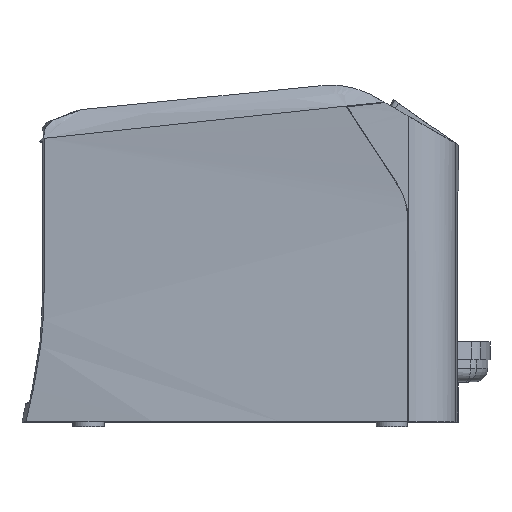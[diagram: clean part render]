
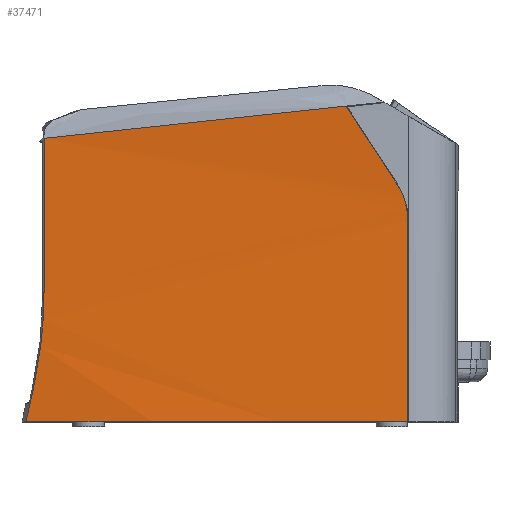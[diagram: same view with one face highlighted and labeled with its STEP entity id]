
A CAD part, top view. The second image highlights one B-rep face of the part: STEP entity #37471.
In plain terms, the highlighted cylindrical face has radius 3075.18 mm (diameter 6150.36 mm), a partial arc.
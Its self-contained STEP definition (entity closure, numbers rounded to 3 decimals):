
#28=ELLIPSE('',#39543,5640.577,3075.18);
#84=CYLINDRICAL_SURFACE('',#39557,3075.18);
#5058=LINE('',#58679,#9930);
#5076=LINE('',#58769,#9948);
#9930=VECTOR('',#48176,225.719);
#9948=VECTOR('',#48230,172.945);
#14094=FACE_OUTER_BOUND('',#16493,.T.);
#16493=EDGE_LOOP('',(#34559,#34560,#34561,#34562,#34563,#34564,#34565,#34566));
#16723=CIRCLE('',#39558,3075.18);
#16847=B_SPLINE_CURVE_WITH_KNOTS('',3,(#58682,#58683,#58684,#58685,#58686,
#58687,#58688,#58689),.UNSPECIFIED.,.F.,.F.,(4,2,2,4),(0.,1.405,
2.81,3.746),.UNSPECIFIED.);
#16851=B_SPLINE_CURVE_WITH_KNOTS('',3,(#58758,#58759,#58760,#58761,#58762,
#58763,#58764,#58765,#58766,#58767),.UNSPECIFIED.,.F.,.F.,(4,3,3,4),(7.044,
26.362,39.782,41.168),.UNSPECIFIED.);
#16852=B_SPLINE_CURVE_WITH_KNOTS('',3,(#58771,#58772,#58773,#58774,#58775,
#58776),.UNSPECIFIED.,.F.,.F.,(4,2,4),(88.926,93.029,
99.891),.UNSPECIFIED.);
#16853=B_SPLINE_CURVE_WITH_KNOTS('',3,(#58778,#58779,#58780,#58781),
 .UNSPECIFIED.,.F.,.F.,(4,4),(1.007,4.486),
 .UNSPECIFIED.);
#19953=VERTEX_POINT('',#58673);
#19955=VERTEX_POINT('',#58677);
#19956=VERTEX_POINT('',#58681);
#19958=VERTEX_POINT('',#58694);
#19974=VERTEX_POINT('',#58757);
#19975=VERTEX_POINT('',#58768);
#19976=VERTEX_POINT('',#58770);
#19977=VERTEX_POINT('',#58777);
#24869=EDGE_CURVE('',#19953,#19955,#5058,.T.);
#24870=EDGE_CURVE('',#19955,#19956,#16847,.T.);
#24873=EDGE_CURVE('',#19956,#19958,#28,.T.);
#24898=EDGE_CURVE('',#19958,#19974,#16851,.T.);
#24899=EDGE_CURVE('',#19974,#19975,#5076,.T.);
#24900=EDGE_CURVE('',#19976,#19975,#16852,.T.);
#24901=EDGE_CURVE('',#19977,#19976,#16853,.T.);
#24902=EDGE_CURVE('',#19977,#19953,#16723,.T.);
#34559=ORIENTED_EDGE('',*,*,#24869,.T.);
#34560=ORIENTED_EDGE('',*,*,#24870,.T.);
#34561=ORIENTED_EDGE('',*,*,#24873,.T.);
#34562=ORIENTED_EDGE('',*,*,#24898,.T.);
#34563=ORIENTED_EDGE('',*,*,#24899,.T.);
#34564=ORIENTED_EDGE('',*,*,#24900,.F.);
#34565=ORIENTED_EDGE('',*,*,#24901,.F.);
#34566=ORIENTED_EDGE('',*,*,#24902,.T.);
#37471=ADVANCED_FACE('',(#14094),#84,.T.);
#39543=AXIS2_PLACEMENT_3D('',#58695,#48184,#48185);
#39557=AXIS2_PLACEMENT_3D('',#58756,#48228,#48229);
#39558=AXIS2_PLACEMENT_3D('',#58782,#48231,#48232);
#48176=DIRECTION('',(0.,1.,0.));
#48184=DIRECTION('center_axis',(-0.838,-0.545,0.));
#48185=DIRECTION('ref_axis',(-0.545,0.838,0.));
#48228=DIRECTION('center_axis',(0.,1.,0.));
#48229=DIRECTION('ref_axis',(-0.098,0.,0.995));
#48230=DIRECTION('',(0.,-1.,0.));
#48231=DIRECTION('center_axis',(0.,1.,0.));
#48232=DIRECTION('ref_axis',(-0.098,0.,0.995));
#58673=CARTESIAN_POINT('',(187.908,0.,137.532));
#58677=CARTESIAN_POINT('',(187.908,225.719,137.532));
#58679=CARTESIAN_POINT('',(187.908,0.,137.532));
#58681=CARTESIAN_POINT('',(177.834,263.156,137.929));
#58682=CARTESIAN_POINT('Ctrl Pts',(187.908,225.719,137.532));
#58683=CARTESIAN_POINT('Ctrl Pts',(187.908,230.403,137.532));
#58684=CARTESIAN_POINT('Ctrl Pts',(187.46,235.246,137.55));
#58685=CARTESIAN_POINT('Ctrl Pts',(185.572,244.881,137.627));
#58686=CARTESIAN_POINT('Ctrl Pts',(184.133,249.672,137.685));
#58687=CARTESIAN_POINT('Ctrl Pts',(180.962,257.327,137.809));
#58688=CARTESIAN_POINT('Ctrl Pts',(179.488,260.305,137.866));
#58689=CARTESIAN_POINT('Ctrl Pts',(177.834,263.156,137.929));
#58694=CARTESIAN_POINT('',(118.771,353.975,139.59));
#58695=CARTESIAN_POINT('Origin',(61.841,441.513,-2935.063));
#58756=CARTESIAN_POINT('Origin',(61.841,0.,-2935.063));
#58757=CARTESIAN_POINT('',(-219.778,317.831,127.195));
#58758=CARTESIAN_POINT('Ctrl Pts',(118.771,353.975,139.59));
#58759=CARTESIAN_POINT('Ctrl Pts',(54.727,347.416,140.776));
#58760=CARTESIAN_POINT('Ctrl Pts',(-9.348,340.75,139.958));
#58761=CARTESIAN_POINT('Ctrl Pts',(-73.239,333.926,137.149));
#58762=CARTESIAN_POINT('Ctrl Pts',(-117.623,329.184,135.197));
#58763=CARTESIAN_POINT('Ctrl Pts',(-161.931,324.373,132.285));
#58764=CARTESIAN_POINT('Ctrl Pts',(-206.098,319.383,128.422));
#58765=CARTESIAN_POINT('Ctrl Pts',(-210.661,318.868,128.023));
#58766=CARTESIAN_POINT('Ctrl Pts',(-215.221,318.35,127.614));
#58767=CARTESIAN_POINT('Ctrl Pts',(-219.778,317.831,127.195));
#58768=CARTESIAN_POINT('',(-219.778,144.886,127.195));
#58769=CARTESIAN_POINT('',(-219.778,235.,127.195));
#58770=CARTESIAN_POINT('',(-231.816,36.421,126.064));
#58771=CARTESIAN_POINT('Ctrl Pts',(-231.816,36.421,126.064));
#58772=CARTESIAN_POINT('Ctrl Pts',(-228.829,49.716,126.351));
#58773=CARTESIAN_POINT('Ctrl Pts',(-226.388,63.146,126.58));
#58774=CARTESIAN_POINT('Ctrl Pts',(-221.354,99.304,127.051));
#58775=CARTESIAN_POINT('Ctrl Pts',(-219.778,122.095,127.195));
#58776=CARTESIAN_POINT('Ctrl Pts',(-219.778,144.886,127.195));
#58777=CARTESIAN_POINT('',(-240.,0.,125.268));
#58778=CARTESIAN_POINT('Ctrl Pts',(-240.,0.,
125.268));
#58779=CARTESIAN_POINT('Ctrl Pts',(-237.371,11.701,125.527));
#58780=CARTESIAN_POINT('Ctrl Pts',(-234.606,24.005,125.796));
#58781=CARTESIAN_POINT('Ctrl Pts',(-231.816,36.421,126.064));
#58782=CARTESIAN_POINT('Origin',(61.841,0.,-2935.063));
